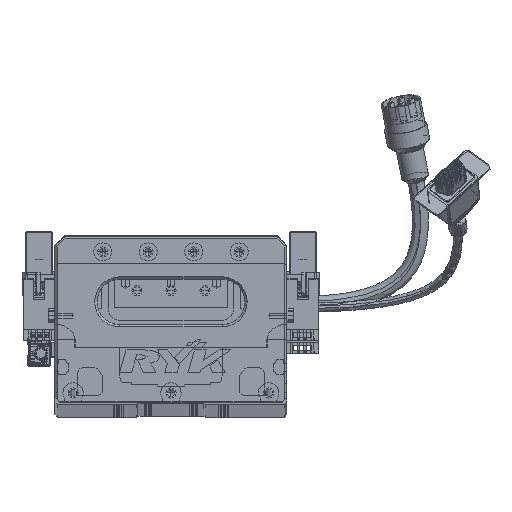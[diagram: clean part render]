
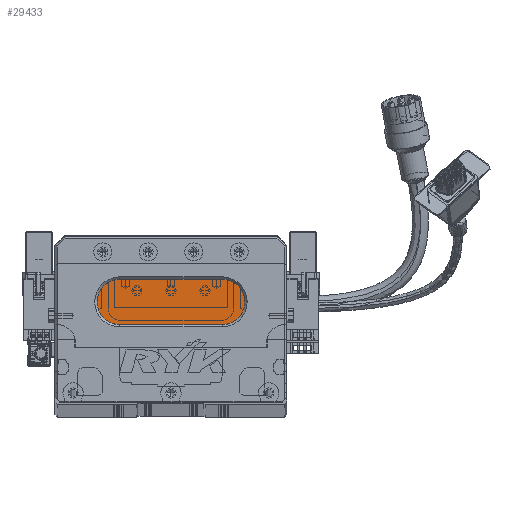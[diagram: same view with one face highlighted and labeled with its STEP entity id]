
A CAD part, top view. The second image highlights one B-rep face of the part: STEP entity #29433.
In plain terms, the highlighted planar face has unit normal (0, 0, 1) as drawn and (0, 0, -1) by its records, which use the part's own axes.
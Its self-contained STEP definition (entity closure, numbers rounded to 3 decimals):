
#76 = AXIS2_PLACEMENT_3D ( 'NONE', #64426, #78586, #86782 ) ;
#248 = VERTEX_POINT ( 'NONE', #27294 ) ;
#978 = DIRECTION ( 'NONE',  ( 0., 0., -1. ) ) ;
#3248 = DIRECTION ( 'NONE',  ( -1., 0., 0. ) ) ;
#15174 = CARTESIAN_POINT ( 'NONE',  ( 28.5, 44., 13. ) ) ;
#15407 = EDGE_CURVE ( 'NONE', #18575, #248, #18702, .T. ) ;
#15816 = CARTESIAN_POINT ( 'NONE',  ( 73.5, 44., 13. ) ) ;
#16195 = DIRECTION ( 'NONE',  ( 0., 0., -1. ) ) ;
#16741 = EDGE_CURVE ( 'NONE', #83549, #57686, #56977, .T. ) ;
#18575 = VERTEX_POINT ( 'NONE', #23865 ) ;
#18702 = CIRCLE ( 'NONE', #30624, 10. ) ;
#20630 = DIRECTION ( 'NONE',  ( -1., 0., 0. ) ) ;
#22887 = ORIENTED_EDGE ( 'NONE', *, *, #15407, .T. ) ;
#23538 = ORIENTED_EDGE ( 'NONE', *, *, #16741, .T. ) ;
#23865 = CARTESIAN_POINT ( 'NONE',  ( 28.5, 34., 13. ) ) ;
#24347 = CARTESIAN_POINT ( 'NONE',  ( 73.5, 44., 13. ) ) ;
#24612 = EDGE_CURVE ( 'NONE', #248, #83549, #72445, .T. ) ;
#24899 = EDGE_LOOP ( 'NONE', ( #82280, #67039, #22887, #64554, #23538 ) ) ;
#27294 = CARTESIAN_POINT ( 'NONE',  ( 18.5, 44., 13. ) ) ;
#29433 = ADVANCED_FACE ( 'NONE', ( #67645 ), #31298, .T. ) ;
#30185 = CARTESIAN_POINT ( 'NONE',  ( 73.5, 54., 13. ) ) ;
#30624 = AXIS2_PLACEMENT_3D ( 'NONE', #15174, #80374, #43544 ) ;
#31298 = PLANE ( 'NONE',  #60476 ) ;
#37576 = AXIS2_PLACEMENT_3D ( 'NONE', #15816, #978, #87962 ) ;
#37668 = CIRCLE ( 'NONE', #37576, 10. ) ;
#38925 = VECTOR ( 'NONE', #80290, 1000. ) ;
#39860 = EDGE_CURVE ( 'NONE', #57686, #61658, #37668, .T. ) ;
#40284 = CARTESIAN_POINT ( 'NONE',  ( 73.5, 34., 13. ) ) ;
#43544 = DIRECTION ( 'NONE',  ( -1., 0., 0. ) ) ;
#56977 = LINE ( 'NONE', #30185, #38925 ) ;
#57686 = VERTEX_POINT ( 'NONE', #83227 ) ;
#60308 = VECTOR ( 'NONE', #20630, 1000. ) ;
#60476 = AXIS2_PLACEMENT_3D ( 'NONE', #24347, #16195, #3248 ) ;
#61658 = VERTEX_POINT ( 'NONE', #40284 ) ;
#63157 = CARTESIAN_POINT ( 'NONE',  ( 73.5, 34., 13. ) ) ;
#64426 = CARTESIAN_POINT ( 'NONE',  ( 28.5, 44., 13. ) ) ;
#64554 = ORIENTED_EDGE ( 'NONE', *, *, #24612, .T. ) ;
#66382 = CARTESIAN_POINT ( 'NONE',  ( 28.5, 54., 13. ) ) ;
#67039 = ORIENTED_EDGE ( 'NONE', *, *, #75268, .T. ) ;
#67645 = FACE_OUTER_BOUND ( 'NONE', #24899, .T. ) ;
#72445 = CIRCLE ( 'NONE', #76, 10. ) ;
#75268 = EDGE_CURVE ( 'NONE', #61658, #18575, #86220, .T. ) ;
#78586 = DIRECTION ( 'NONE',  ( 0., 0., -1. ) ) ;
#80290 = DIRECTION ( 'NONE',  ( 1., 0., 0. ) ) ;
#80374 = DIRECTION ( 'NONE',  ( 0., 0., -1. ) ) ;
#82280 = ORIENTED_EDGE ( 'NONE', *, *, #39860, .T. ) ;
#83227 = CARTESIAN_POINT ( 'NONE',  ( 73.5, 54., 13. ) ) ;
#83549 = VERTEX_POINT ( 'NONE', #66382 ) ;
#86220 = LINE ( 'NONE', #63157, #60308 ) ;
#86782 = DIRECTION ( 'NONE',  ( -1., 0., 0. ) ) ;
#87962 = DIRECTION ( 'NONE',  ( -1., 0., 0. ) ) ;
